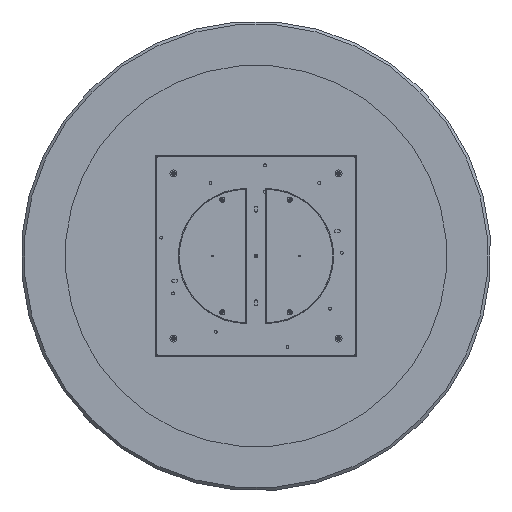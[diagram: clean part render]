
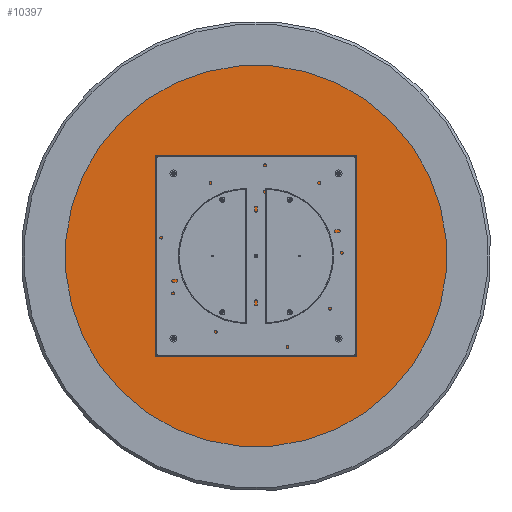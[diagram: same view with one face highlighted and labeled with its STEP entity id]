
A CAD part, front view. The second image highlights one B-rep face of the part: STEP entity #10397.
In plain terms, the highlighted planar face has unit normal (0, -1, 0).
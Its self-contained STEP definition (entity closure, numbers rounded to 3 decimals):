
#67 = AXIS2_PLACEMENT_3D ( 'NONE', #3691, #3775, #4034 ) ;
#234 = ORIENTED_EDGE ( 'NONE', *, *, #7557, .F. ) ;
#281 = CARTESIAN_POINT ( 'NONE',  ( 0., 0., -397.5 ) ) ;
#284 = CARTESIAN_POINT ( 'NONE',  ( 0., 0., -400.9 ) ) ;
#341 = EDGE_CURVE ( 'NONE', #2677, #11344, #1923, .T. ) ;
#427 = VERTEX_POINT ( 'NONE', #1350 ) ;
#684 = FACE_OUTER_BOUND ( 'NONE', #10126, .T. ) ;
#763 = CARTESIAN_POINT ( 'NONE',  ( 0., 0., -6.3 ) ) ;
#764 = CARTESIAN_POINT ( 'NONE',  ( 0., 0., -394.1 ) ) ;
#866 = EDGE_LOOP ( 'NONE', ( #17085, #17060 ) ) ;
#1256 = CARTESIAN_POINT ( 'NONE',  ( 0., 0., 397.5 ) ) ;
#1350 = CARTESIAN_POINT ( 'NONE',  ( -397.5, 0., 3.4 ) ) ;
#1524 = EDGE_CURVE ( 'NONE', #7132, #15325, #14142, .T. ) ;
#1610 = DIRECTION ( 'NONE',  ( 0., -1., 0. ) ) ;
#1772 = DIRECTION ( 'NONE',  ( 0., 0., -1. ) ) ;
#1859 = CIRCLE ( 'NONE', #5725, 6.3 ) ;
#1923 = CIRCLE ( 'NONE', #14103, 650. ) ;
#2049 = VERTEX_POINT ( 'NONE', #3093 ) ;
#2235 = ORIENTED_EDGE ( 'NONE', *, *, #3092, .F. ) ;
#2384 = EDGE_CURVE ( 'NONE', #2997, #8079, #12793, .T. ) ;
#2677 = VERTEX_POINT ( 'NONE', #15671 ) ;
#2997 = VERTEX_POINT ( 'NONE', #763 ) ;
#3046 = CIRCLE ( 'NONE', #5258, 3.4 ) ;
#3092 = EDGE_CURVE ( 'NONE', #11344, #2677, #6365, .T. ) ;
#3093 = CARTESIAN_POINT ( 'NONE',  ( 397.5, 0., -3.4 ) ) ;
#3178 = ORIENTED_EDGE ( 'NONE', *, *, #5973, .F. ) ;
#3191 = CIRCLE ( 'NONE', #4573, 3.4 ) ;
#3555 = ORIENTED_EDGE ( 'NONE', *, *, #15539, .F. ) ;
#3691 = CARTESIAN_POINT ( 'NONE',  ( 0., 0., 0. ) ) ;
#3737 = ORIENTED_EDGE ( 'NONE', *, *, #5041, .F. ) ;
#3775 = DIRECTION ( 'NONE',  ( 0., -1., 0. ) ) ;
#4034 = DIRECTION ( 'NONE',  ( 0., 0., -1. ) ) ;
#4110 = AXIS2_PLACEMENT_3D ( 'NONE', #12732, #11441, #11268 ) ;
#4220 = AXIS2_PLACEMENT_3D ( 'NONE', #5333, #10642, #15906 ) ;
#4243 = DIRECTION ( 'NONE',  ( 0., -1., 0. ) ) ;
#4264 = ORIENTED_EDGE ( 'NONE', *, *, #16028, .F. ) ;
#4371 = CARTESIAN_POINT ( 'NONE',  ( 0., 0., 0. ) ) ;
#4573 = AXIS2_PLACEMENT_3D ( 'NONE', #9983, #10477, #11284 ) ;
#4818 = FACE_BOUND ( 'NONE', #4851, .T. ) ;
#4851 = EDGE_LOOP ( 'NONE', ( #3178, #11840 ) ) ;
#4857 = CARTESIAN_POINT ( 'NONE',  ( 0., 0., 6.3 ) ) ;
#5041 = EDGE_CURVE ( 'NONE', #15302, #427, #15647, .T. ) ;
#5258 = AXIS2_PLACEMENT_3D ( 'NONE', #10556, #7679, #15465 ) ;
#5333 = CARTESIAN_POINT ( 'NONE',  ( -397.5, 0., 0. ) ) ;
#5587 = EDGE_LOOP ( 'NONE', ( #5696, #234 ) ) ;
#5601 = CIRCLE ( 'NONE', #14745, 3.4 ) ;
#5696 = ORIENTED_EDGE ( 'NONE', *, *, #2384, .F. ) ;
#5725 = AXIS2_PLACEMENT_3D ( 'NONE', #4371, #15109, #11241 ) ;
#5973 = EDGE_CURVE ( 'NONE', #2049, #9655, #14016, .T. ) ;
#6039 = FACE_BOUND ( 'NONE', #866, .T. ) ;
#6365 = CIRCLE ( 'NONE', #8615, 650. ) ;
#6546 = CARTESIAN_POINT ( 'NONE',  ( 0., 0., 0. ) ) ;
#6707 = CARTESIAN_POINT ( 'NONE',  ( -397.5, 0., 0. ) ) ;
#7132 = VERTEX_POINT ( 'NONE', #284 ) ;
#7155 = EDGE_CURVE ( 'NONE', #15325, #7132, #3191, .T. ) ;
#7207 = CIRCLE ( 'NONE', #8880, 3.4 ) ;
#7533 = FACE_BOUND ( 'NONE', #7576, .T. ) ;
#7557 = EDGE_CURVE ( 'NONE', #8079, #2997, #1859, .T. ) ;
#7576 = EDGE_LOOP ( 'NONE', ( #14679, #4264 ) ) ;
#7679 = DIRECTION ( 'NONE',  ( 0., -1., 0. ) ) ;
#7821 = CIRCLE ( 'NONE', #4220, 3.4 ) ;
#8079 = VERTEX_POINT ( 'NONE', #4857 ) ;
#8615 = AXIS2_PLACEMENT_3D ( 'NONE', #6546, #8821, #12805 ) ;
#8821 = DIRECTION ( 'NONE',  ( 0., 1., 0. ) ) ;
#8880 = AXIS2_PLACEMENT_3D ( 'NONE', #1256, #16769, #12875 ) ;
#9402 = CARTESIAN_POINT ( 'NONE',  ( 397.5, 0., 3.4 ) ) ;
#9602 = CARTESIAN_POINT ( 'NONE',  ( 0., 0., 397.5 ) ) ;
#9655 = VERTEX_POINT ( 'NONE', #9402 ) ;
#9983 = CARTESIAN_POINT ( 'NONE',  ( 0., 0., -397.5 ) ) ;
#10126 = EDGE_LOOP ( 'NONE', ( #2235, #15693 ) ) ;
#10141 = CARTESIAN_POINT ( 'NONE',  ( 0., 0., 394.1 ) ) ;
#10210 = CARTESIAN_POINT ( 'NONE',  ( -397.5, 0., -3.4 ) ) ;
#10397 = ADVANCED_FACE ( 'NONE', ( #16871, #12564, #7533, #4818, #6039, #684 ), #12816, .F. ) ;
#10477 = DIRECTION ( 'NONE',  ( 0., -1., 0. ) ) ;
#10490 = CARTESIAN_POINT ( 'NONE',  ( 0., 0., 400.9 ) ) ;
#10556 = CARTESIAN_POINT ( 'NONE',  ( 397.5, 0., 0. ) ) ;
#10604 = VERTEX_POINT ( 'NONE', #10490 ) ;
#10642 = DIRECTION ( 'NONE',  ( 0., -1., 0. ) ) ;
#11241 = DIRECTION ( 'NONE',  ( 0., 0., -1. ) ) ;
#11268 = DIRECTION ( 'NONE',  ( 0., 0., 1. ) ) ;
#11284 = DIRECTION ( 'NONE',  ( 0., 0., -1. ) ) ;
#11344 = VERTEX_POINT ( 'NONE', #14311 ) ;
#11441 = DIRECTION ( 'NONE',  ( 0., 1., 0. ) ) ;
#11512 = VERTEX_POINT ( 'NONE', #10141 ) ;
#11840 = ORIENTED_EDGE ( 'NONE', *, *, #13438, .F. ) ;
#11926 = DIRECTION ( 'NONE',  ( 0., 0., -1. ) ) ;
#11952 = AXIS2_PLACEMENT_3D ( 'NONE', #281, #4243, #16205 ) ;
#12116 = DIRECTION ( 'NONE',  ( 0., 0., -1. ) ) ;
#12140 = EDGE_CURVE ( 'NONE', #11512, #10604, #7207, .T. ) ;
#12564 = FACE_BOUND ( 'NONE', #13839, .T. ) ;
#12732 = CARTESIAN_POINT ( 'NONE',  ( 0., 0., 0. ) ) ;
#12793 = CIRCLE ( 'NONE', #67, 6.3 ) ;
#12805 = DIRECTION ( 'NONE',  ( 0., 0., 1. ) ) ;
#12816 = PLANE ( 'NONE',  #4110 ) ;
#12875 = DIRECTION ( 'NONE',  ( 0., 0., -1. ) ) ;
#13438 = EDGE_CURVE ( 'NONE', #9655, #2049, #3046, .T. ) ;
#13659 = DIRECTION ( 'NONE',  ( 0., -1., 0. ) ) ;
#13839 = EDGE_LOOP ( 'NONE', ( #3737, #3555 ) ) ;
#14016 = CIRCLE ( 'NONE', #14561, 3.4 ) ;
#14103 = AXIS2_PLACEMENT_3D ( 'NONE', #16546, #15737, #15235 ) ;
#14142 = CIRCLE ( 'NONE', #11952, 3.4 ) ;
#14311 = CARTESIAN_POINT ( 'NONE',  ( 0., 0., -650. ) ) ;
#14561 = AXIS2_PLACEMENT_3D ( 'NONE', #14615, #1610, #12116 ) ;
#14615 = CARTESIAN_POINT ( 'NONE',  ( 397.5, 0., 0. ) ) ;
#14667 = DIRECTION ( 'NONE',  ( 0., -1., 0. ) ) ;
#14679 = ORIENTED_EDGE ( 'NONE', *, *, #12140, .F. ) ;
#14745 = AXIS2_PLACEMENT_3D ( 'NONE', #9602, #13659, #1772 ) ;
#15109 = DIRECTION ( 'NONE',  ( 0., -1., 0. ) ) ;
#15235 = DIRECTION ( 'NONE',  ( 0., 0., 1. ) ) ;
#15302 = VERTEX_POINT ( 'NONE', #10210 ) ;
#15325 = VERTEX_POINT ( 'NONE', #764 ) ;
#15465 = DIRECTION ( 'NONE',  ( 0., 0., -1. ) ) ;
#15539 = EDGE_CURVE ( 'NONE', #427, #15302, #7821, .T. ) ;
#15647 = CIRCLE ( 'NONE', #15921, 3.4 ) ;
#15671 = CARTESIAN_POINT ( 'NONE',  ( 0., 0., 650. ) ) ;
#15693 = ORIENTED_EDGE ( 'NONE', *, *, #341, .F. ) ;
#15737 = DIRECTION ( 'NONE',  ( 0., 1., 0. ) ) ;
#15906 = DIRECTION ( 'NONE',  ( 0., 0., -1. ) ) ;
#15921 = AXIS2_PLACEMENT_3D ( 'NONE', #6707, #14667, #11926 ) ;
#16028 = EDGE_CURVE ( 'NONE', #10604, #11512, #5601, .T. ) ;
#16205 = DIRECTION ( 'NONE',  ( 0., 0., -1. ) ) ;
#16546 = CARTESIAN_POINT ( 'NONE',  ( 0., 0., 0. ) ) ;
#16769 = DIRECTION ( 'NONE',  ( 0., -1., 0. ) ) ;
#16871 = FACE_BOUND ( 'NONE', #5587, .T. ) ;
#17060 = ORIENTED_EDGE ( 'NONE', *, *, #7155, .F. ) ;
#17085 = ORIENTED_EDGE ( 'NONE', *, *, #1524, .F. ) ;
